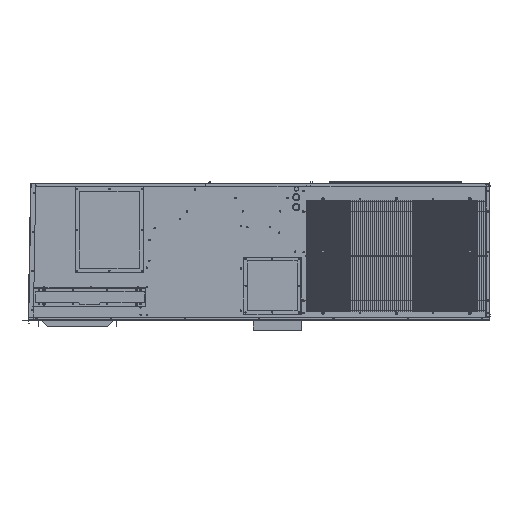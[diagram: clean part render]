
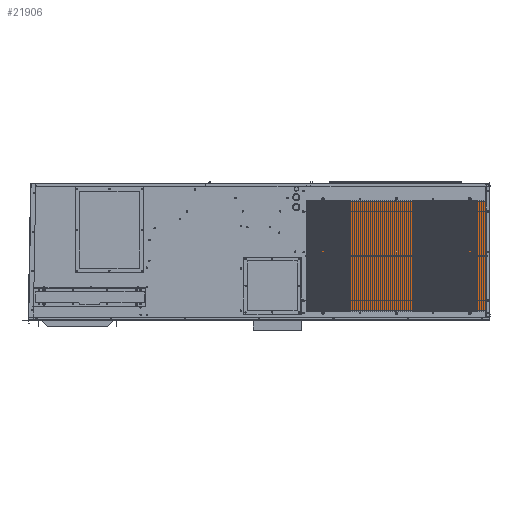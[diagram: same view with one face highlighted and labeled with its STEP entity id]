
A CAD part, left-side view. The second image highlights one B-rep face of the part: STEP entity #21906.
In plain terms, the highlighted planar face has unit normal (-1, 0, 0).
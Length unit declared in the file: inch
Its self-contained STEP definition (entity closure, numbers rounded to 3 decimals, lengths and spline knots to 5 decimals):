
#5913 = CARTESIAN_POINT ( 'NONE',  ( -20.676, 0., 26.85981 ) ) ;
#20449 = LINE ( 'NONE', #5913, #134451 ) ;
#21906 = ADVANCED_FACE ( 'NONE', ( #131053 ), #146553, .F. ) ;
#22130 = EDGE_LOOP ( 'NONE', ( #167333, #36195, #131999, #27409 ) ) ;
#27409 = ORIENTED_EDGE ( 'NONE', *, *, #136536, .F. ) ;
#32124 = DIRECTION ( 'NONE',  ( 0., 0., 1. ) ) ;
#36195 = ORIENTED_EDGE ( 'NONE', *, *, #50981, .T. ) ;
#42178 = CARTESIAN_POINT ( 'NONE',  ( -20.676, 0., 26.85981 ) ) ;
#42492 = CARTESIAN_POINT ( 'NONE',  ( -20.676, 0., 0.089 ) ) ;
#46642 = VECTOR ( 'NONE', #140825, 39.37008 ) ;
#50981 = EDGE_CURVE ( 'NONE', #98157, #185099, #84818, .T. ) ;
#57920 = CARTESIAN_POINT ( 'NONE',  ( -20.676, 141.1382, 26.85981 ) ) ;
#65285 = AXIS2_PLACEMENT_3D ( 'NONE', #161101, #149433, #120361 ) ;
#73562 = VECTOR ( 'NONE', #133852, 39.37008 ) ;
#74858 = CARTESIAN_POINT ( 'NONE',  ( -20.676, 141.1382, 0.089 ) ) ;
#78958 = LINE ( 'NONE', #172766, #46642 ) ;
#84818 = LINE ( 'NONE', #74858, #73562 ) ;
#98157 = VERTEX_POINT ( 'NONE', #169535 ) ;
#115969 = LINE ( 'NONE', #57920, #150089 ) ;
#120361 = DIRECTION ( 'NONE',  ( 0., 0., -1. ) ) ;
#128570 = VERTEX_POINT ( 'NONE', #42178 ) ;
#131053 = FACE_OUTER_BOUND ( 'NONE', #22130, .T. ) ;
#131999 = ORIENTED_EDGE ( 'NONE', *, *, #136181, .T. ) ;
#133359 = DIRECTION ( 'NONE',  ( 0., -1., 0. ) ) ;
#133852 = DIRECTION ( 'NONE',  ( 0., -1., 0. ) ) ;
#134451 = VECTOR ( 'NONE', #32124, 39.37008 ) ;
#136181 = EDGE_CURVE ( 'NONE', #185099, #128570, #20449, .T. ) ;
#136536 = EDGE_CURVE ( 'NONE', #147097, #128570, #115969, .T. ) ;
#140825 = DIRECTION ( 'NONE',  ( 0., -0.017, 1. ) ) ;
#146553 = PLANE ( 'NONE',  #65285 ) ;
#147097 = VERTEX_POINT ( 'NONE', #163477 ) ;
#147927 = EDGE_CURVE ( 'NONE', #98157, #147097, #78958, .T. ) ;
#149433 = DIRECTION ( 'NONE',  ( 1., 0., 0. ) ) ;
#150089 = VECTOR ( 'NONE', #133359, 39.37008 ) ;
#161101 = CARTESIAN_POINT ( 'NONE',  ( -20.676, 141.1382, 26.85981 ) ) ;
#163477 = CARTESIAN_POINT ( 'NONE',  ( -20.676, 91.63963, 26.85981 ) ) ;
#167333 = ORIENTED_EDGE ( 'NONE', *, *, #147927, .F. ) ;
#169535 = CARTESIAN_POINT ( 'NONE',  ( -20.676, 92.10691, 0.089 ) ) ;
#172766 = CARTESIAN_POINT ( 'NONE',  ( -20.676, 91.6547, 25.99607 ) ) ;
#185099 = VERTEX_POINT ( 'NONE', #42492 ) ;
